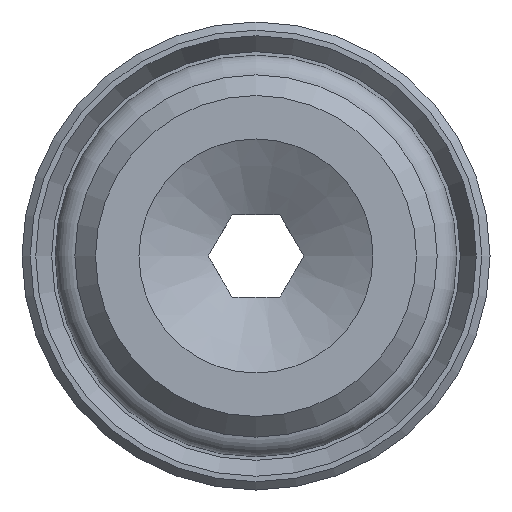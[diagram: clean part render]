
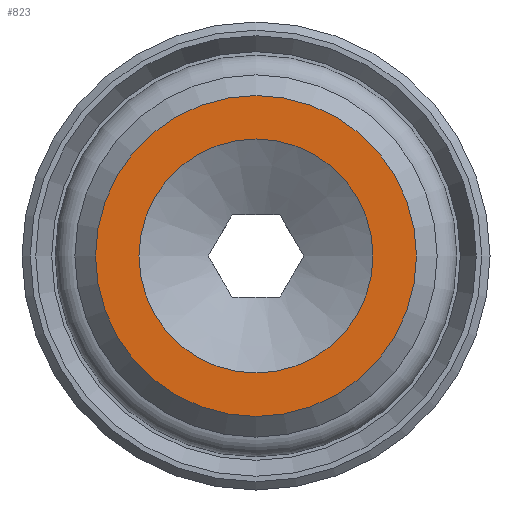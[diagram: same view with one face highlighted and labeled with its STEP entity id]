
A CAD part, front view. The second image highlights one B-rep face of the part: STEP entity #823.
In plain terms, the highlighted planar face has unit normal (0, -1, 0).
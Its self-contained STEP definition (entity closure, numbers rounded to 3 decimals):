
#159=PLANE('',#916);
#186=FACE_BOUND('',#317,.T.);
#244=FACE_OUTER_BOUND('',#316,.T.);
#316=EDGE_LOOP('',(#717));
#317=EDGE_LOOP('',(#718));
#379=CIRCLE('',#913,5.829);
#381=CIRCLE('',#917,4.25);
#453=VERTEX_POINT('',#1427);
#455=VERTEX_POINT('',#1433);
#555=EDGE_CURVE('',#453,#453,#379,.T.);
#557=EDGE_CURVE('',#455,#455,#381,.T.);
#717=ORIENTED_EDGE('',*,*,#555,.F.);
#718=ORIENTED_EDGE('',*,*,#557,.F.);
#823=ADVANCED_FACE('',(#244,#186),#159,.T.);
#913=AXIS2_PLACEMENT_3D('',#1428,#1124,#1125);
#916=AXIS2_PLACEMENT_3D('',#1432,#1130,#1131);
#917=AXIS2_PLACEMENT_3D('',#1434,#1132,#1133);
#1124=DIRECTION('center_axis',(0.,1.,0.));
#1125=DIRECTION('ref_axis',(-1.,0.,0.));
#1130=DIRECTION('center_axis',(0.,-1.,0.));
#1131=DIRECTION('ref_axis',(0.,0.,-1.));
#1132=DIRECTION('center_axis',(0.,-1.,0.));
#1133=DIRECTION('ref_axis',(1.,0.,0.));
#1427=CARTESIAN_POINT('',(5.829,0.,0.));
#1428=CARTESIAN_POINT('Origin',(0.,0.,0.));
#1432=CARTESIAN_POINT('Origin',(4.25,0.,0.));
#1433=CARTESIAN_POINT('',(4.25,0.,0.));
#1434=CARTESIAN_POINT('Origin',(0.,0.,0.));
